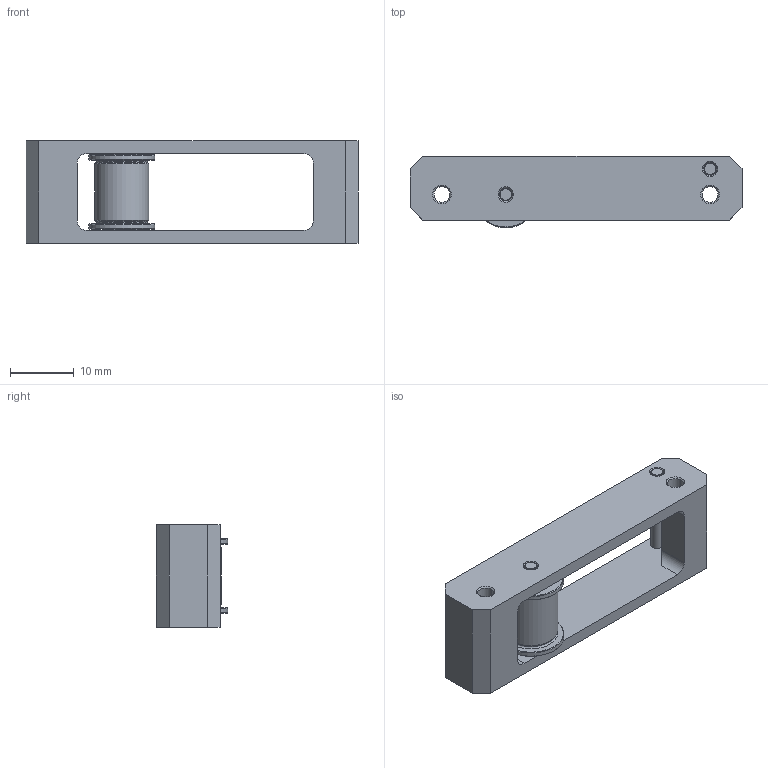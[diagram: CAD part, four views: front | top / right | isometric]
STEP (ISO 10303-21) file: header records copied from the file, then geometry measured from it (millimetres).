
FILE_DESCRIPTION (( 'STEP AP214' ), '1' );
FILE_NAME ('LMA10_applicator.STEP', '2015-03-04T10:21:03', ( '' ), ( '' ), 'SwSTEP 2.0', 'SolidWorks 2013', '' );
FILE_SCHEMA (( 'AUTOMOTIVE_DESIGN' ));
Length unit declared in the file: millimetre
Products named in the file (1): LMA10_applicator
Bounding box: 52 x 11.2 x 16 mm (x, y, z)
Volume: 4019 mm3; surface area: 3763.4 mm2
Topology: 1 solids, 3 shells, 113 faces, 266 edges, 164 vertices
Faces by surface type: cone 46, cylinder 32, plane 27, torus 8
Entity records: 3360 total; most frequent: DIRECTION 630, CARTESIAN_POINT 550, ORIENTED_EDGE 532, EDGE_CURVE 266, AXIS2_PLACEMENT_3D 252, VERTEX_POINT 164, CIRCLE 138, EDGE_LOOP 132
